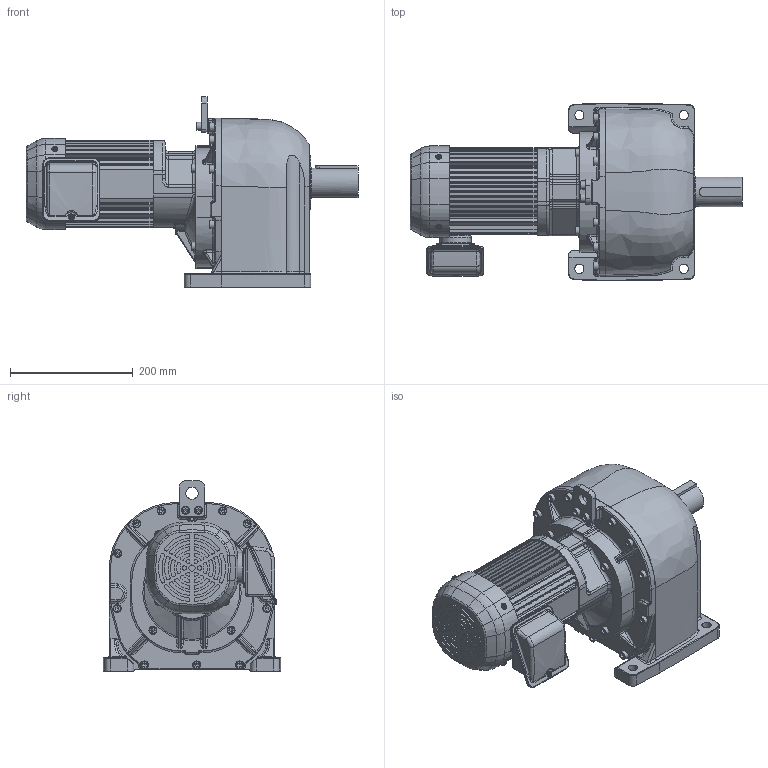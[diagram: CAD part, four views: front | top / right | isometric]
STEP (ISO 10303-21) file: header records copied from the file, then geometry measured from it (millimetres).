
FILE_DESCRIPTION( ( 'Unknown' ), '1' );
FILE_NAME( 'X:/gear/gm/3D-WEB/IE3/SP/ﾊﾟｰﾂ/完成品/sp_075_270-450.stp', 'Unknown', ( 'Unknown' ), ( 'Unknown' ), 'PSStep 14.0', 'Unknown', ' ' );
FILE_SCHEMA( ( 'AUTOMOTIVE_DESIGN { 1 0 10303 214 1 1 1 1 }' ) );
Length unit declared in the file: millimetre
Products named in the file (2): P164381_Gｹｰｽ(L48)
Bounding box: 541 x 290 x 310 mm (x, y, z)
Volume: 15020492.4 mm3; surface area: 912661.8 mm2
Topology: 2 solids, 55 shells, 2119 faces, 5221 edges, 3299 vertices
Faces by surface type: cylinder 923, plane 807, torus 152, bspline 125, cone 92, sphere 20
Full cylindrical faces by diameter (mm): 3.8 x6, 4.134 x4, 4.2 x8, 4.5 x8, 4.8 x1, 5.5 x4, 5.6 x1, 5.8 x4, 6 x8, 6.647 x9, 6.8 x9, 7 x5, 8 x17, 8.2 x1, 9 x11, 10 x23, 12 x2, 13 x19, 13.5 x2, 20 x1, 23 x1, 25 x3, 28.6 x1, 48 x3, 50 x2, 50.1 x1, 51.2 x1, 55 x1, 65 x1, 68 x2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
Entity records: 96016 total; most frequent: CARTESIAN_POINT 30306, DIRECTION 10736, ORIENTED_EDGE 9480, EDGE_CURVE 4740, AXIS2_PLACEMENT_3D 4254, VERTEX_POINT 3149, EDGE_LOOP 2553, FACE_OUTER_BOUND 2316
